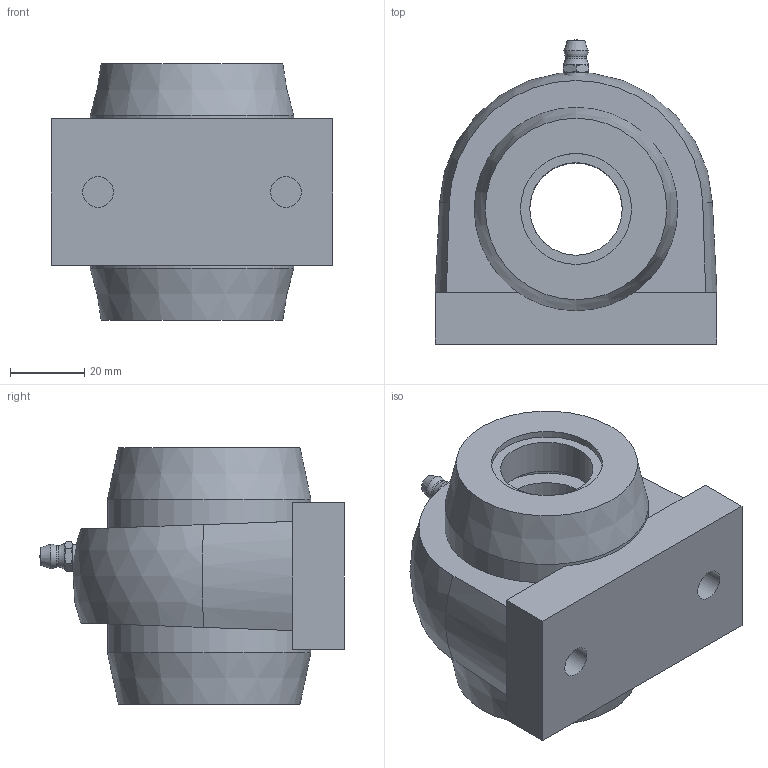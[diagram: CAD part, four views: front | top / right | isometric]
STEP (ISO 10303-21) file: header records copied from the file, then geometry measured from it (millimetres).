
FILE_DESCRIPTION(/* description */ (''),/* implementation_level */ '2;1');
FILE_NAME(/* name */ 'C:\Users\UGijyutu_200702\Desktop\77.プラスチックハウジング\MBTBL200V\MBTBL200VC\MBTBL205VC.stp',/* time_stamp */ '2024-05-28T11:57:19+09:00',/* author */ ('UGijyutu_200702'),/* organization */ (''),/* preprocessor_version */ 'ST-DEVELOPER v18',/* originating_system */ 'Autodesk Inventor 2020',/* authorisation */ '');
FILE_SCHEMA (('AUTOMOTIVE_DESIGN { 1 0 10303 214 3 1 1 }'));
Length unit declared in the file: millimetre
Products named in the file (5): MBTBL205V; TBL205; MB5 V; 1/4-28UNF-2A; 205C
Assembly tree (5 placements, depth 2):
  MBTBL205V
    TBL205
    MB5 V
    1/4-28UNF-2A
    205C  x2
Bounding box: 76.2 x 82.3 x 69.4 mm (x, y, z)
Volume: 145234.1 mm3; surface area: 55143.5 mm2
Topology: 5 solids, 5 shells, 109 faces, 263 edges, 181 vertices
Faces by surface type: plane 56, cylinder 27, cone 19, sphere 5, torus 2
Full cylindrical faces by diameter (mm): 3.2 x1, 5 x2, 5.359 x1, 6.35 x1, 8.376 x2, 25 x3, 30 x2, 34 x1, 40.6 x2, 51.4 x2, 54.8 x2, 55 x2
Entity records: 3365 total; most frequent: CARTESIAN_POINT 761, DIRECTION 525, ORIENTED_EDGE 474, EDGE_CURVE 237, AXIS2_PLACEMENT_3D 219, VERTEX_POINT 163, EDGE_LOOP 120, CIRCLE 102
